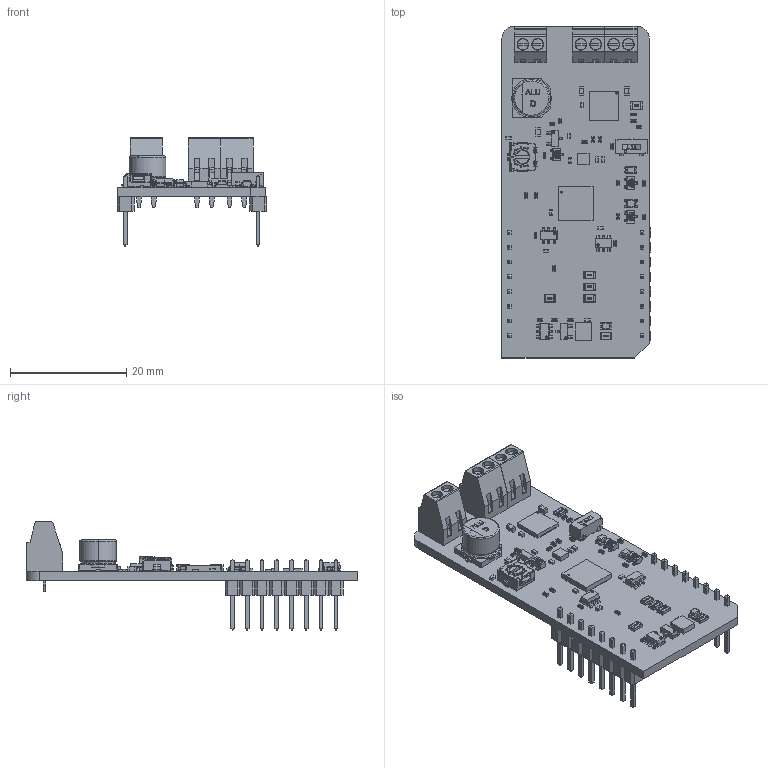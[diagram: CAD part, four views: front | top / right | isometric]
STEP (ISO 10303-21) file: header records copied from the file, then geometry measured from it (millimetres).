
FILE_DESCRIPTION(('Open CASCADE Model'),'2;1');
FILE_NAME('Open CASCADE Shape Model','2026-07-27T08:55:21',('Author'),( 'Open CASCADE'),'Open CASCADE STEP processor 7.5','Open CASCADE 7.5' ,'Unknown');
FILE_SCHEMA(('AUTOMOTIVE_DESIGN { 1 0 10303 214 1 1 1 1 }'));
Length unit declared in the file: millimetre
Products named in the file (107): PCB; Board; Open CASCADE STEP translator 7.5 3.1.1; R24; User Library-R_0402; R23; R16; R13; R12; R11; R10; R9; R7; Q5; SOT23-3; Q4; SOT323 (SC70-3)-1; User Library-SOT323 (SC70-3)-1_K_X_F6rper_1; User Library-SOT323 (SC70-3)-1_Beschriftung_1; User Library-SOT323 (SC70-3)-1_Pins_1; C14; User Library-SMD CAPACITOR0603; C13; User Library-SMD CAPACITOR0402; R5; C12; VR1; ST-4ETA100k_(104); _ST-4EA10X(100)_body; _ST-4-dial1; _ST-4EA_terminal_1; _ST-4EA_terminal; _ST-4EA_terminal_2; U7; User Library-SOT23-6-2; U6; U5; 9864594592; Extruded; U4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
Assembly tree (156 placements, depth 7):
  PCB
    Board
      Open CASCADE STEP translator 7.5 3.1.1
    R24
      User Library-R_0402
    R23
      User Library-R_0402
    R16
      User Library-R_0402
    R13
      User Library-R_0402
    R12
      User Library-R_0402
    R11
      User Library-R_0402
    R10
      User Library-R_0402
    R9
      User Library-R_0402
    R7
      User Library-R_0402
    Q5
      SOT23-3
    Q4
      SOT323 (SC70-3)-1
        User Library-SOT323 (SC70-3)-1_K_X_F6rper_1
        User Library-SOT323 (SC70-3)-1_Beschriftung_1
        User Library-SOT323 (SC70-3)-1_Pins_1  x3
    C14
      User Library-SMD CAPACITOR0603
    C13
      User Library-SMD CAPACITOR0402
    R5
      User Library-R_0402
    C12
      User Library-SMD CAPACITOR0603
    VR1
      ST-4ETA100k_(104)
        _ST-4EA10X(100)_body
        _ST-4-dial1
        _ST-4EA_terminal_1
        _ST-4EA_terminal
        _ST-4EA_terminal_2
    U7
      User Library-SOT23-6-2
    U6
      User Library-SOT23-6-2
    U5
      9864594592
        Extruded
    U4
      QFN28_6X6MC_MCH
    U3
      User Library-qfn32-5x5
    TB3
      ScrewTerminal 2.54
    TB2
      ScrewTerminal 2.54
    TB1
      ScrewTerminal 2.54
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Bounding box: 25.78 x 57.15 x 18.61 mm (x, y, z)
Volume: 3663.4 mm3; surface area: 7766.9 mm2
Topology: 226 solids, 226 shells, 7587 faces, 19301 edges, 12313 vertices
Faces by surface type: plane 4564, bspline 1970, cylinder 915, sphere 130, cone 4, revolution 2, torus 2
Full cylindrical faces by diameter (mm): 0.2 x1, 0.3 x1, 1.8 x1, 2.5 x1, 3.2 x1, 3.8 x1
Entity records: 94751 total; most frequent: CARTESIAN_POINT 21289, ORIENTED_EDGE 12390, DIRECTION 10365, EDGE_CURVE 6195, LINE 4551, VECTOR 4551, VERTEX_POINT 4017, AXIS2_PLACEMENT_3D 2906
